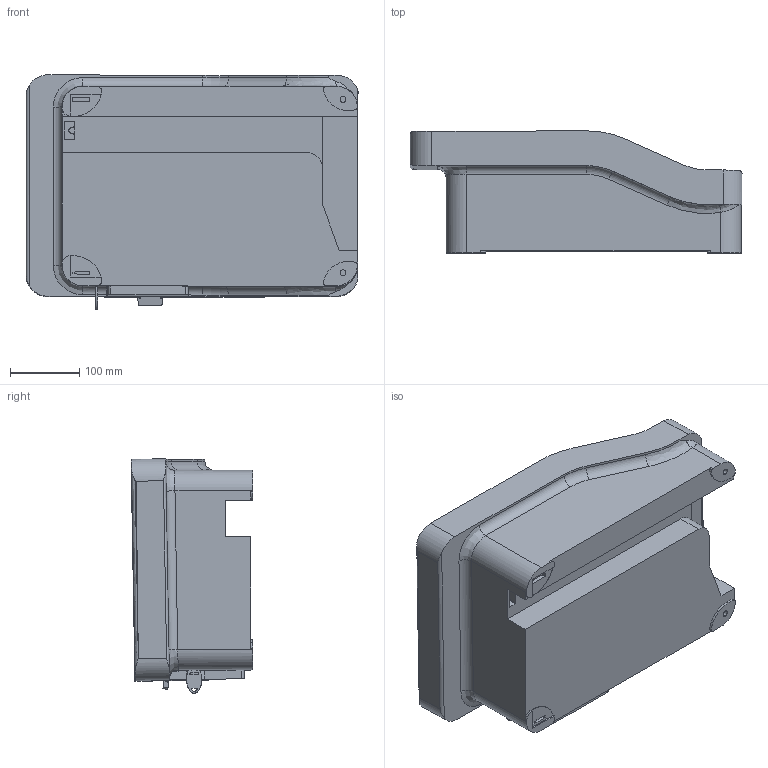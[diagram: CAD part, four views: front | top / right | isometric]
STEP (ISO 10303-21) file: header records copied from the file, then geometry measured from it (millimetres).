
FILE_DESCRIPTION((''),'2;1');
FILE_NAME('EVB1A7PCKI_3D-SIMPLIFIED_ASM','2016-05-12T',('gpezzani'),(''),'PRO/ENGINEER BY PARAMETRIC TECHNOLOGY CORPORATION, 2014090','PRO/ENGINEER BY PARAMETRIC TECHNOLOGY CORPORATION, 2014090','');
FILE_SCHEMA(('CONFIG_CONTROL_DESIGN'));
Length unit declared in the file: inch
Products named in the file (7): CORPS_3; BOUTON_1; CLEF_1; CLEF_BOUTON_1; SIMPLIFIED_ASM_4_ASM; EVB1A22P2KI_3D-SIMPLIFIED_ASM_4_ASM; EVB1A7PCKI_3D-SIMPLIFIED_ASM
Assembly tree (6 placements, depth 4):
  EVB1A7PCKI_3D-SIMPLIFIED_ASM
    EVB1A22P2KI_3D-SIMPLIFIED_ASM_4_ASM
      SIMPLIFIED_ASM_4_ASM
        CORPS_3
        BOUTON_1
        CLEF_1
        CLEF_BOUTON_1
Bounding box: 478.2 x 175.46 x 337.72 mm (x, y, z)
Volume: 18901989.6 mm3; surface area: 577197 mm2
Topology: 4 solids, 4 shells, 220 faces, 610 edges, 407 vertices
Faces by surface type: plane 106, cylinder 88, extrusion 18, bspline 6, torus 2
Entity records: 8113 total; most frequent: CARTESIAN_POINT 2296, ORIENTED_EDGE 1220, DIRECTION 1135, EDGE_CURVE 610, VERTEX_POINT 407, AXIS2_PLACEMENT_3D 383, VECTOR 369, LINE 351
